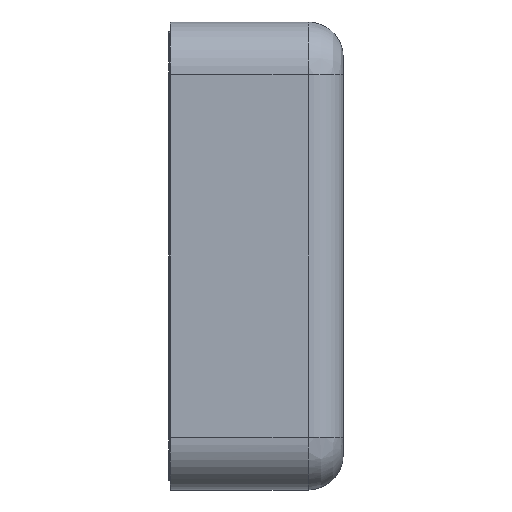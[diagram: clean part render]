
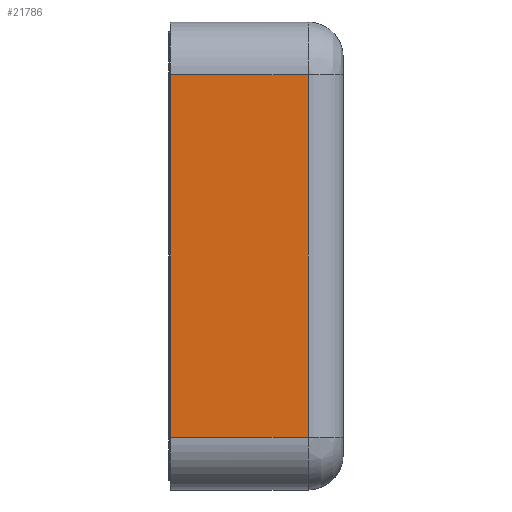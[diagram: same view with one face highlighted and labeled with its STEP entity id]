
A CAD part, left-side view. The second image highlights one B-rep face of the part: STEP entity #21786.
In plain terms, the highlighted planar face has unit normal (-1, 0, 0).
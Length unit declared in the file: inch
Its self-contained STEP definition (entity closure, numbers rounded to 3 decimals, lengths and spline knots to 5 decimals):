
#1445 = CARTESIAN_POINT ( 'NONE',  ( -9.28727, 0.72443, 4.78744 ) ) ;
#3008 = CARTESIAN_POINT ( 'NONE',  ( -9.28727, 0.62443, 4.78744 ) ) ;
#5653 = CARTESIAN_POINT ( 'NONE',  ( -9.28727, -3.19998, -5.55545 ) ) ;
#5730 = VERTEX_POINT ( 'NONE', #38834 ) ;
#6155 = DIRECTION ( 'NONE',  ( 0., 1., 0. ) ) ;
#7107 = EDGE_CURVE ( 'NONE', #44303, #28212, #47997, .T. ) ;
#8500 = CARTESIAN_POINT ( 'NONE',  ( -9.28727, -3.19998, 4.78744 ) ) ;
#9568 = EDGE_CURVE ( 'NONE', #53232, #5730, #61874, .T. ) ;
#15033 = ORIENTED_EDGE ( 'NONE', *, *, #9568, .F. ) ;
#15925 = VECTOR ( 'NONE', #54482, 39.37008 ) ;
#18288 = DIRECTION ( 'NONE',  ( 0., 0., 1. ) ) ;
#19072 = CARTESIAN_POINT ( 'NONE',  ( -9.28727, -3.19998, 4.78744 ) ) ;
#21786 = ADVANCED_FACE ( 'NONE', ( #54496 ), #36217, .T. ) ;
#23377 = VECTOR ( 'NONE', #18288, 39.37008 ) ;
#26418 = LINE ( 'NONE', #8500, #23377 ) ;
#28212 = VERTEX_POINT ( 'NONE', #59481 ) ;
#30114 = ORIENTED_EDGE ( 'NONE', *, *, #7107, .T. ) ;
#31661 = EDGE_CURVE ( 'NONE', #5730, #28212, #60803, .T. ) ;
#36217 = PLANE ( 'NONE',  #49638 ) ;
#36538 = VECTOR ( 'NONE', #47588, 39.37008 ) ;
#38834 = CARTESIAN_POINT ( 'NONE',  ( -9.28727, 0.72443, -5.55545 ) ) ;
#38919 = ORIENTED_EDGE ( 'NONE', *, *, #31661, .F. ) ;
#44303 = VERTEX_POINT ( 'NONE', #19072 ) ;
#44422 = VECTOR ( 'NONE', #6155, 39.37008 ) ;
#46257 = DIRECTION ( 'NONE',  ( 0., 0., 1. ) ) ;
#47588 = DIRECTION ( 'NONE',  ( 0., 1., 0. ) ) ;
#47931 = EDGE_CURVE ( 'NONE', #53232, #44303, #26418, .T. ) ;
#47997 = LINE ( 'NONE', #62197, #36538 ) ;
#49638 = AXIS2_PLACEMENT_3D ( 'NONE', #3008, #56851, #46257 ) ;
#49840 = ORIENTED_EDGE ( 'NONE', *, *, #47931, .T. ) ;
#53232 = VERTEX_POINT ( 'NONE', #5653 ) ;
#54482 = DIRECTION ( 'NONE',  ( 0., 0., 1. ) ) ;
#54496 = FACE_OUTER_BOUND ( 'NONE', #59130, .T. ) ;
#55497 = CARTESIAN_POINT ( 'NONE',  ( -9.28727, 0.62443, -5.55545 ) ) ;
#56851 = DIRECTION ( 'NONE',  ( -1., 0., 0. ) ) ;
#59130 = EDGE_LOOP ( 'NONE', ( #15033, #49840, #30114, #38919 ) ) ;
#59481 = CARTESIAN_POINT ( 'NONE',  ( -9.28727, 0.72443, 4.78744 ) ) ;
#60803 = LINE ( 'NONE', #1445, #15925 ) ;
#61874 = LINE ( 'NONE', #55497, #44422 ) ;
#62197 = CARTESIAN_POINT ( 'NONE',  ( -9.28727, 0.62443, 4.78744 ) ) ;
